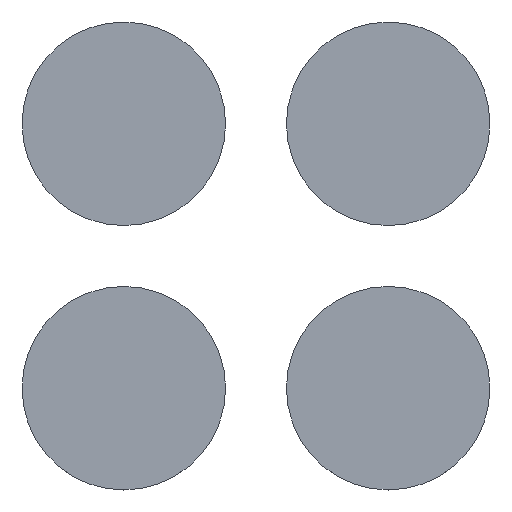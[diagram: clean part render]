
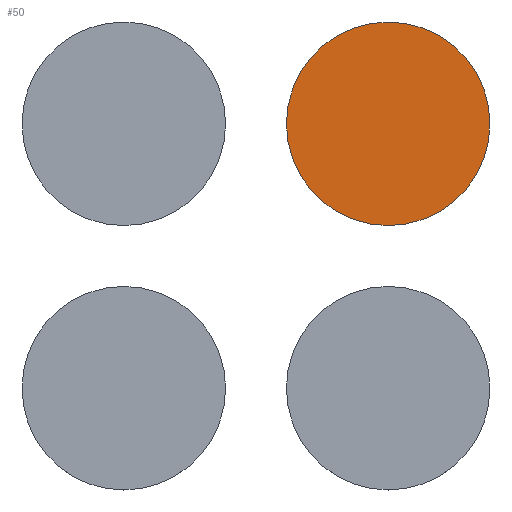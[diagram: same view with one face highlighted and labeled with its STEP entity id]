
A CAD part, top view. The second image highlights one B-rep face of the part: STEP entity #50.
In plain terms, the highlighted planar face has unit normal (0, 0, 1).
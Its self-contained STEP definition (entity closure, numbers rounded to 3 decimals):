
#21 = EDGE_CURVE('',#22,#22,#24,.T.);
#22 = VERTEX_POINT('',#23);
#23 = CARTESIAN_POINT('',(204.612,115.612,32.));
#24 = CIRCLE('',#25,89.);
#25 = AXIS2_PLACEMENT_3D('',#26,#27,#28);
#26 = CARTESIAN_POINT('',(115.612,115.612,32.));
#27 = DIRECTION('',(0.,0.,1.));
#28 = DIRECTION('',(1.,0.,0.));
#50 = ADVANCED_FACE('',(#51),#54,.T.);
#51 = FACE_BOUND('',#52,.T.);
#52 = EDGE_LOOP('',(#53));
#53 = ORIENTED_EDGE('',*,*,#21,.T.);
#54 = PLANE('',#55);
#55 = AXIS2_PLACEMENT_3D('',#56,#57,#58);
#56 = CARTESIAN_POINT('',(115.612,115.612,32.));
#57 = DIRECTION('',(0.,0.,1.));
#58 = DIRECTION('',(1.,0.,0.));
